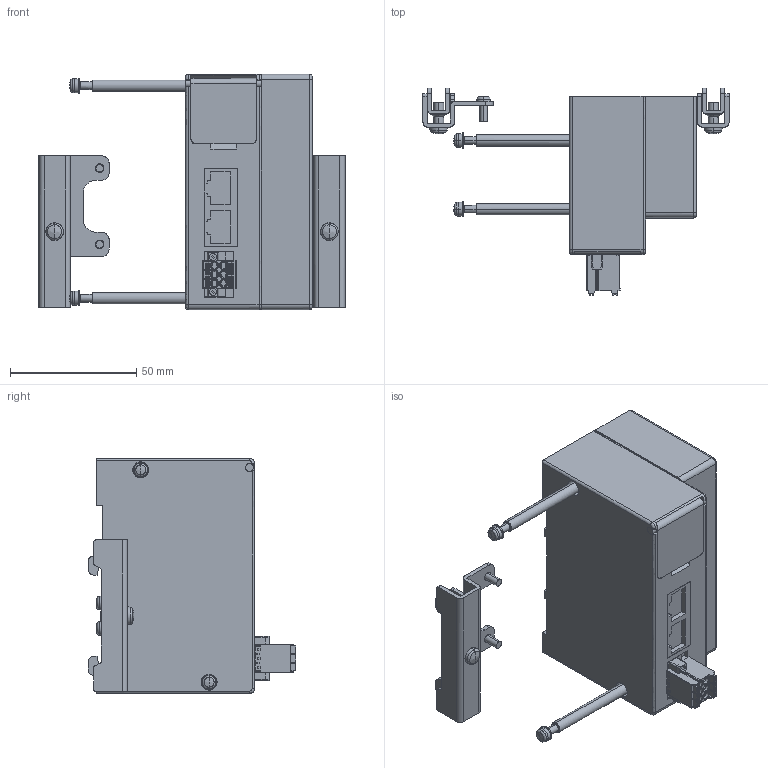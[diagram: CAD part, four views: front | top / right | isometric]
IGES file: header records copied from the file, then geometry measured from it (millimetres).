
Start section: ------------------------------------------------------------------------
Bounding box: 121 x 82.1 x 93 mm (x, y, z)
Volume: 264980 mm3; surface area: 46299.4 mm2
Topology: 3 solids, 3 shells, 971 faces, 2541 edges, 1629 vertices
Faces by surface type: bspline 971
